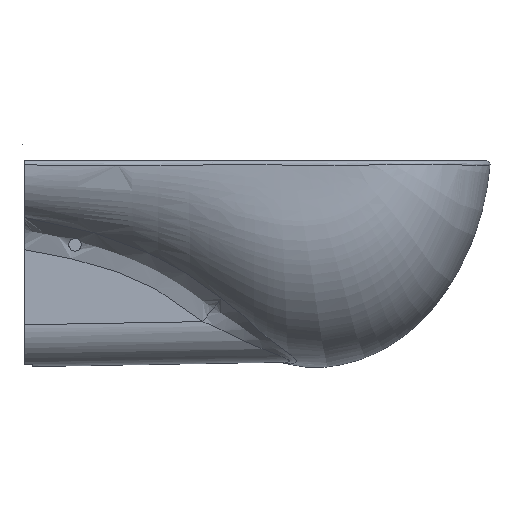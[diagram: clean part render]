
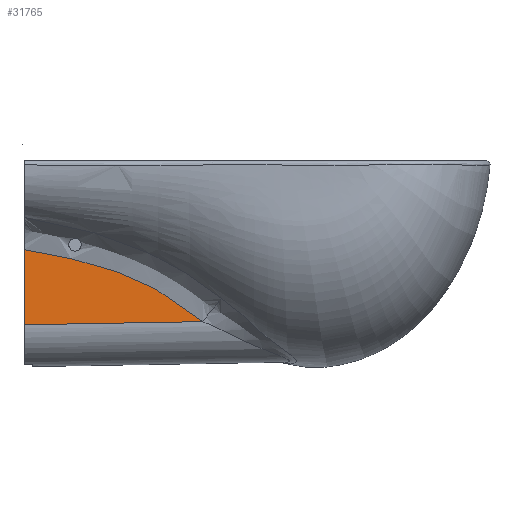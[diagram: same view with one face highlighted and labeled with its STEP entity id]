
A CAD part, left-side view. The second image highlights one B-rep face of the part: STEP entity #31765.
In plain terms, the highlighted planar face has unit normal (-0.996, -0.087, 0).
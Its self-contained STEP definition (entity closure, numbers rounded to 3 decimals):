
#1927 = CARTESIAN_POINT ( 'NONE',  ( -387.048, -3848.37, -180.13 ) ) ;
#2839 = CARTESIAN_POINT ( 'NONE',  ( -383.841, -3885.022, -202.806 ) ) ;
#3470 = CARTESIAN_POINT ( 'NONE',  ( -399.183, -3709.66, -139.1 ) ) ;
#3726 = EDGE_CURVE ( 'NONE', #58807, #47060, #19995, .T. ) ;
#7569 = CARTESIAN_POINT ( 'NONE',  ( -382.821, -3896.677, -211.469 ) ) ;
#8170 = VECTOR ( 'NONE', #27145, 1000. ) ;
#8270 = CARTESIAN_POINT ( 'NONE',  ( -400.024, -3700.051, -137.509 ) ) ;
#8503 = CARTESIAN_POINT ( 'NONE',  ( -393.357, -3776.248, -153.485 ) ) ;
#8809 = CARTESIAN_POINT ( 'NONE',  ( -394.182, -3766.824, -150.998 ) ) ;
#9434 = CARTESIAN_POINT ( 'NONE',  ( -398.344, -3719.253, -140.767 ) ) ;
#10426 = CARTESIAN_POINT ( 'NONE',  ( -400.024, -3700.051, -226.839 ) ) ;
#11406 = EDGE_CURVE ( 'NONE', #47060, #41537, #48144, .T. ) ;
#11988 = CARTESIAN_POINT ( 'NONE',  ( -392.947, -3780.943, -154.782 ) ) ;
#12915 = CARTESIAN_POINT ( 'NONE',  ( -395.839, -3747.888, -146.464 ) ) ;
#16084 = CARTESIAN_POINT ( 'NONE',  ( -381.467, -3912.158, -223.136 ) ) ;
#16396 = CARTESIAN_POINT ( 'NONE',  ( -389.334, -3822.238, -168.345 ) ) ;
#16527 = DIRECTION ( 'NONE',  ( -0.996, -0.087, 0. ) ) ;
#16702 = CARTESIAN_POINT ( 'NONE',  ( -392.742, -3783.284, -155.445 ) ) ;
#17553 = CARTESIAN_POINT ( 'NONE',  ( -381.467, -3912.158, -223.136 ) ) ;
#19447 = VECTOR ( 'NONE', #58502, 1000. ) ;
#19871 = ORIENTED_EDGE ( 'NONE', *, *, #50937, .F. ) ;
#19995 = LINE ( 'NONE', #54094, #19447 ) ;
#22035 = CARTESIAN_POINT ( 'NONE',  ( -384.184, -3881.106, -199.98 ) ) ;
#24498 = PLANE ( 'NONE',  #52415 ) ;
#25777 = ORIENTED_EDGE ( 'NONE', *, *, #11406, .T. ) ;
#27145 = DIRECTION ( 'NONE',  ( 0., 0., 1. ) ) ;
#27398 = ORIENTED_EDGE ( 'NONE', *, *, #3726, .T. ) ;
#27462 = LINE ( 'NONE', #54302, #8170 ) ;
#27688 = CARTESIAN_POINT ( 'NONE',  ( -400.024, -3700.051, -137.509 ) ) ;
#31298 = FACE_OUTER_BOUND ( 'NONE', #38416, .T. ) ;
#31765 = ADVANCED_FACE ( 'NONE', ( #31298 ), #24498, .T. ) ;
#35575 = CARTESIAN_POINT ( 'NONE',  ( -385.231, -3869.131, -191.946 ) ) ;
#36008 = CARTESIAN_POINT ( 'NONE',  ( -400.024, -3700.051, -67.402 ) ) ;
#36181 = CARTESIAN_POINT ( 'NONE',  ( -382.145, -3904.412, -217.313 ) ) ;
#38416 = EDGE_LOOP ( 'NONE', ( #27398, #25777, #19871 ) ) ;
#39973 = CARTESIAN_POINT ( 'NONE',  ( -381.806, -3908.279, -220.237 ) ) ;
#40284 = CARTESIAN_POINT ( 'NONE',  ( -387.422, -3844.096, -178.006 ) ) ;
#41537 = VERTEX_POINT ( 'NONE', #8270 ) ;
#45012 = CARTESIAN_POINT ( 'NONE',  ( -383.16, -3892.808, -208.55 ) ) ;
#46558 = CARTESIAN_POINT ( 'NONE',  ( -394.595, -3762.099, -149.823 ) ) ;
#47060 = VERTEX_POINT ( 'NONE', #17553 ) ;
#47179 = CARTESIAN_POINT ( 'NONE',  ( -396.672, -3738.367, -144.448 ) ) ;
#48144 = B_SPLINE_CURVE_WITH_KNOTS ( 'NONE', 3,
 ( #16084, #39973, #36181, #7569, #45012, #2839, #22035, #49736, #35575, #50353, #60395, #1927, #40284, #59484, #16396, #54764, #59788, #16702, #11988, #8503, #52214, #8809, #46558, #12915, #47179, #9434, #3470, #27688 ),
 .UNSPECIFIED., .F., .F.,
 ( 4, 2, 2, 2, 2, 2, 2, 2, 2, 2, 2, 2, 2, 4 ),
 ( 0., 0.014, 0.029, 0.043, 0.057, 0.072, 0.086, 0.115, 0.144, 0.151, 0.158, 0.172, 0.201, 0.23 ),
 .UNSPECIFIED. ) ;
#49736 = CARTESIAN_POINT ( 'NONE',  ( -384.879, -3873.161, -194.549 ) ) ;
#50353 = CARTESIAN_POINT ( 'NONE',  ( -385.947, -3860.949, -186.98 ) ) ;
#50937 = EDGE_CURVE ( 'NONE', #58807, #41537, #27462, .T. ) ;
#52214 = CARTESIAN_POINT ( 'NONE',  ( -393.563, -3773.893, -152.852 ) ) ;
#52415 = AXIS2_PLACEMENT_3D ( 'NONE', #36008, #16527, #59614 ) ;
#54094 = CARTESIAN_POINT ( 'NONE',  ( -399.782, -3702.812, -226.79 ) ) ;
#54302 = CARTESIAN_POINT ( 'NONE',  ( -400.024, -3700.051, -67.402 ) ) ;
#54764 = CARTESIAN_POINT ( 'NONE',  ( -390.916, -3804.157, -161.782 ) ) ;
#58502 = DIRECTION ( 'NONE',  ( 0.087, -0.996, 0.017 ) ) ;
#58807 = VERTEX_POINT ( 'NONE', #10426 ) ;
#59484 = CARTESIAN_POINT ( 'NONE',  ( -388.558, -3831.11, -171.958 ) ) ;
#59614 = DIRECTION ( 'NONE',  ( 0.087, -0.996, 0. ) ) ;
#59788 = CARTESIAN_POINT ( 'NONE',  ( -391.721, -3794.947, -158.833 ) ) ;
#60395 = CARTESIAN_POINT ( 'NONE',  ( -386.31, -3856.797, -184.617 ) ) ;
